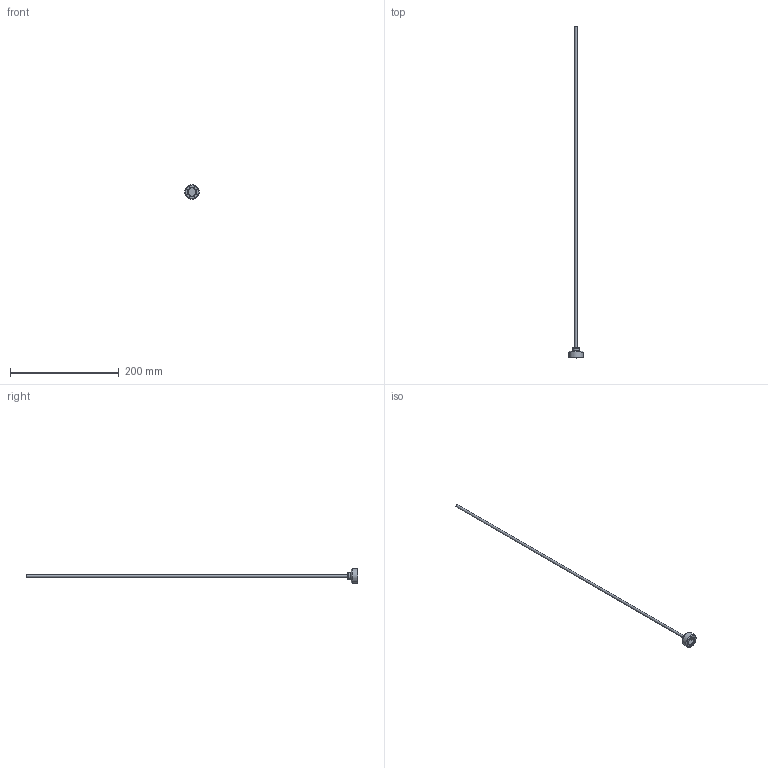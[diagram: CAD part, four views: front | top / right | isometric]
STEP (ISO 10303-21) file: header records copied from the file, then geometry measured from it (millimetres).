
FILE_DESCRIPTION(/* description */ (''),/* implementation_level */ '2;1');
FILE_NAME(/* name */ 'C:/Users/drich/Desktop/DR-750 v2.step',/* time_stamp */ '2020-01-08T16:10:59-06:00',/* author */ (''),/* organization */ (''),/* preprocessor_version */ 'ST-DEVELOPER v18',/* originating_system */ 'Autodesk Translation Framework v8.12.0.6',/* authorisation */ '');
FILE_SCHEMA (('AUTOMOTIVE_DESIGN { 1 0 10303 214 3 1 1 }'));
Length unit declared in the file: inch
Products named in the file (1): DR-750
Bounding box: 26.3 x 609.6 x 26.3 mm (x, y, z)
Volume: 15923.1 mm3; surface area: 11482.2 mm2
Topology: 2 solids, 2 shells, 20 faces, 45 edges, 31 vertices
Faces by surface type: plane 12, cylinder 3, cone 3, torus 2
Full cylindrical faces by diameter (mm): 4.75 x1, 11.1 x1, 26.299 x1
Entity records: 609 total; most frequent: CARTESIAN_POINT 109, DIRECTION 102, ORIENTED_EDGE 90, EDGE_CURVE 45, AXIS2_PLACEMENT_3D 42, VERTEX_POINT 31, EDGE_LOOP 22, CIRCLE 21
